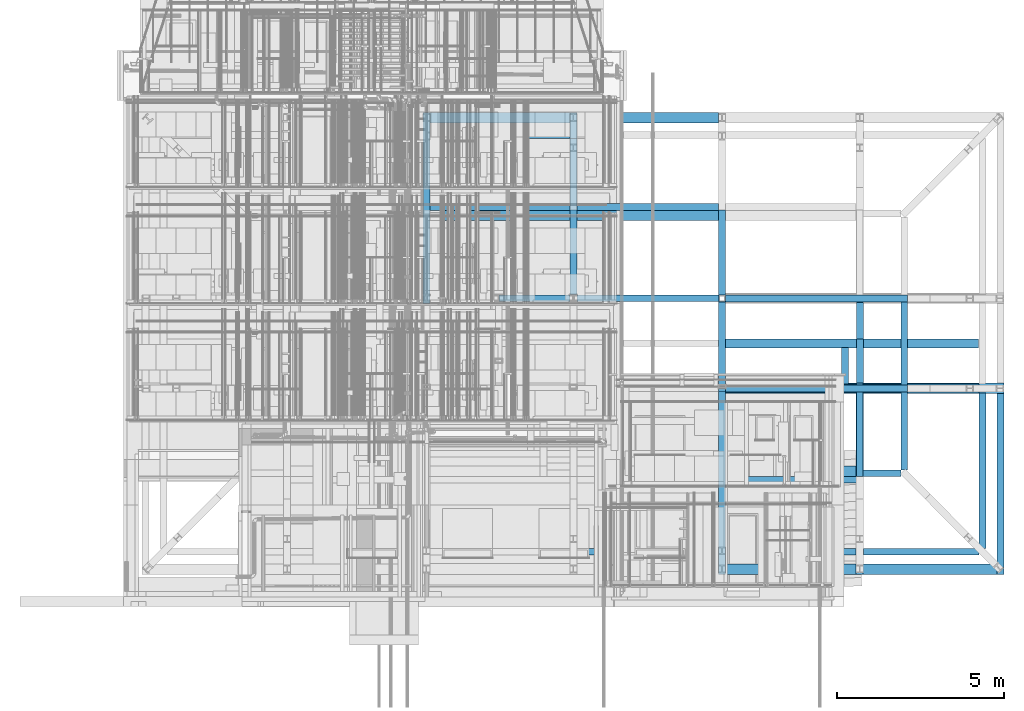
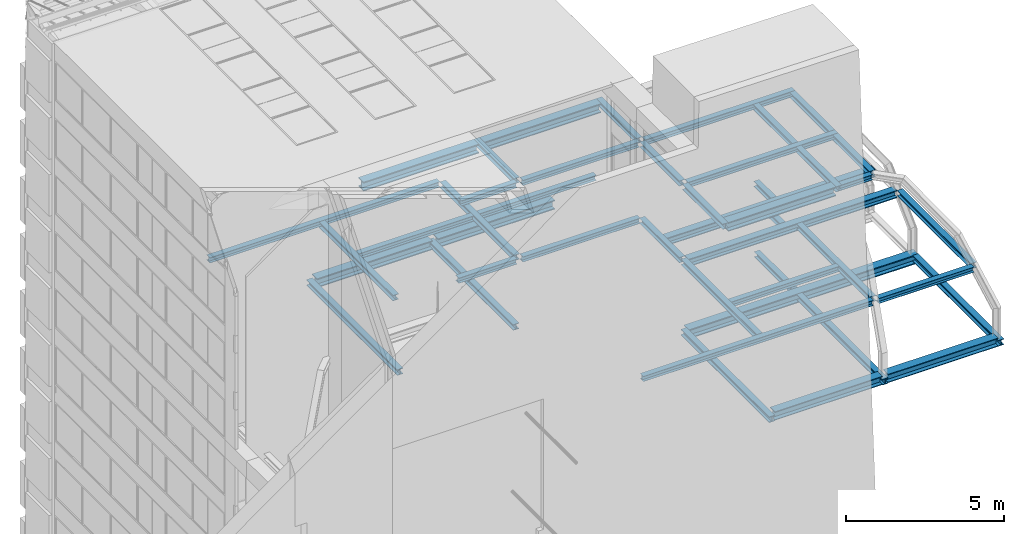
# One storey, part 6 of 583: 45 beams.
"""IFC2X3 building model written with IfcOpenShell, lengths in metres."""

from ifc_helpers import new_model, entity, si_unit, converted_unit, derived_unit, money_unit, direction, frame, origin_with_axes, place, context, subcontext, project, spatial, polyline, outline, extrude, material, type_object, element, save


model = new_model("IFC2X3")

# Units and contexts
model_context = context("Model", 3, precision=1e-05, world=origin_with_axes(), true_north=direction((0.0, 1.0)))
body_context = subcontext(model_context, "Body", "Model", "MODEL_VIEW", scale=1.0)
ifc_project = project(units=[si_unit("LENGTHUNIT", "METRE"), si_unit("AREAUNIT", "SQUARE_METRE"), si_unit("VOLUMEUNIT", "CUBIC_METRE"), si_unit("ABSORBEDDOSEUNIT", "GRAY"), si_unit("AMOUNTOFSUBSTANCEUNIT", "MOLE"), si_unit("DOSEEQUIVALENTUNIT", "SIEVERT"), si_unit("ELECTRICCAPACITANCEUNIT", "FARAD"), si_unit("ELECTRICCHARGEUNIT", "COULOMB"), si_unit("ELECTRICCONDUCTANCEUNIT", "SIEMENS"), si_unit("ELECTRICCURRENTUNIT", "AMPERE"), si_unit("ELECTRICRESISTANCEUNIT", "OHM"), si_unit("ELECTRICVOLTAGEUNIT", "VOLT"), si_unit("ENERGYUNIT", "JOULE"), si_unit("FORCEUNIT", "NEWTON"), si_unit("FREQUENCYUNIT", "HERTZ"), si_unit("ILLUMINANCEUNIT", "LUX"), si_unit("INDUCTANCEUNIT", "HENRY"), si_unit("LUMINOUSFLUXUNIT", "LUMEN"), si_unit("LUMINOUSINTENSITYUNIT", "CANDELA"), si_unit("MAGNETICFLUXDENSITYUNIT", "TESLA"), si_unit("MAGNETICFLUXUNIT", "WEBER"), si_unit("MASSUNIT", "GRAM"), converted_unit("PLANEANGLEUNIT", "degree", entity("IfcReal", 0.0174532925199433), si_unit("PLANEANGLEUNIT", "RADIAN"), dimensions=[0, 0, 0, 0, 0, 0, 0]), si_unit("POWERUNIT", "WATT"), si_unit("PRESSUREUNIT", "PASCAL"), si_unit("RADIOACTIVITYUNIT", "BECQUEREL"), si_unit("SOLIDANGLEUNIT", "STERADIAN"), si_unit("THERMODYNAMICTEMPERATUREUNIT", "KELVIN"), si_unit("TIMEUNIT", "SECOND"), derived_unit("ACCELERATIONUNIT", [(si_unit("LENGTHUNIT", "METRE"), 1), (si_unit("TIMEUNIT", "SECOND"), -2)]), derived_unit("ANGULARVELOCITYUNIT", [(converted_unit("PLANEANGLEUNIT", "degree", entity("IfcReal", 0.0174532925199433), si_unit("PLANEANGLEUNIT", "RADIAN"), dimensions=[0, 0, 0, 0, 0, 0, 0]), 1), (si_unit("TIMEUNIT", "SECOND"), -1)]), derived_unit("CURVATUREUNIT", [(converted_unit("PLANEANGLEUNIT", "degree", entity("IfcReal", 0.0174532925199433), si_unit("PLANEANGLEUNIT", "RADIAN"), dimensions=[0, 0, 0, 0, 0, 0, 0]), 1), (si_unit("LENGTHUNIT", "METRE"), -1)]), derived_unit("DYNAMICVISCOSITYUNIT", [(si_unit("PRESSUREUNIT", "PASCAL"), 1), (si_unit("TIMEUNIT", "SECOND"), 1)]), derived_unit("HEATFLUXDENSITYUNIT", [(si_unit("POWERUNIT", "WATT"), 1), (si_unit("LENGTHUNIT", "METRE"), -2)]), derived_unit("HEATINGVALUEUNIT", [(si_unit("ENERGYUNIT", "JOULE"), 1), (si_unit("MASSUNIT", "GRAM"), -1)]), derived_unit("INTEGERCOUNTRATEUNIT", [(si_unit("TIMEUNIT", "SECOND"), -1)]), derived_unit("IONCONCENTRATIONUNIT", [(si_unit("MASSUNIT", "GRAM"), 1), (si_unit("VOLUMEUNIT", "CUBIC_METRE"), -1)]), derived_unit("ISOTHERMALMOISTURECAPACITYUNIT", [(si_unit("VOLUMEUNIT", "CUBIC_METRE"), 1), (si_unit("MASSUNIT", "GRAM"), -1)]), derived_unit("KINEMATICVISCOSITYUNIT", [(si_unit("AREAUNIT", "SQUARE_METRE"), 1), (si_unit("TIMEUNIT", "SECOND"), -1)]), derived_unit("LINEARFORCEUNIT", [(si_unit("FORCEUNIT", "NEWTON"), 1), (si_unit("LENGTHUNIT", "METRE"), -1)]), derived_unit("LINEARMOMENTUNIT", [(si_unit("FORCEUNIT", "NEWTON"), 1), (si_unit("LENGTHUNIT", "METRE"), -1)]), derived_unit("LINEARSTIFFNESSUNIT", [(si_unit("FORCEUNIT", "NEWTON"), 1), (si_unit("LENGTHUNIT", "METRE"), -1)]), derived_unit("LINEARVELOCITYUNIT", [(si_unit("LENGTHUNIT", "METRE"), 1), (si_unit("TIMEUNIT", "SECOND"), -1)]), derived_unit("LUMINOUSINTENSITYDISTRIBUTIONUNIT", [(si_unit("LUMINOUSINTENSITYUNIT", "CANDELA"), 1), (si_unit("LUMINOUSFLUXUNIT", "LUMEN"), -1)]), derived_unit("MASSDENSITYUNIT", [(si_unit("MASSUNIT", "GRAM"), 1), (si_unit("VOLUMEUNIT", "CUBIC_METRE"), -1)]), derived_unit("MASSFLOWRATEUNIT", [(si_unit("MASSUNIT", "GRAM"), 1), (si_unit("TIMEUNIT", "SECOND"), -1)]), derived_unit("MASSPERLENGTHUNIT", [(si_unit("MASSUNIT", "GRAM"), 1), (si_unit("LENGTHUNIT", "METRE"), -1)]), derived_unit("MODULUSOFELASTICITYUNIT", [(si_unit("FORCEUNIT", "NEWTON"), 1), (si_unit("AREAUNIT", "SQUARE_METRE"), -1)]), derived_unit("MODULUSOFLINEARSUBGRADEREACTIONUNIT", [(si_unit("FORCEUNIT", "NEWTON"), 1), (si_unit("LENGTHUNIT", "METRE"), -2)]), derived_unit("MODULUSOFROTATIONALSUBGRADEREACTIONUNIT", [(si_unit("FORCEUNIT", "NEWTON"), 1), (si_unit("LENGTHUNIT", "METRE"), 1)]), derived_unit("MODULUSOFSUBGRADEREACTIONUNIT", [(si_unit("FORCEUNIT", "NEWTON"), 1), (si_unit("VOLUMEUNIT", "CUBIC_METRE"), -1)]), derived_unit("MOISTUREDIFFUSIVITYUNIT", [(si_unit("VOLUMEUNIT", "CUBIC_METRE"), 1), (si_unit("TIMEUNIT", "SECOND"), -1)]), derived_unit("MOLECULARWEIGHTUNIT", [(si_unit("MASSUNIT", "GRAM"), 1), (si_unit("AMOUNTOFSUBSTANCEUNIT", "MOLE"), -1)]), derived_unit("PLANARFORCEUNIT", [(si_unit("FORCEUNIT", "NEWTON"), 1), (si_unit("LENGTHUNIT", "METRE"), -2)]), derived_unit("ROTATIONALFREQUENCYUNIT", [(si_unit("TIMEUNIT", "SECOND"), -1)]), derived_unit("ROTATIONALMASSUNIT", [(si_unit("MASSUNIT", "GRAM"), 1), (si_unit("LENGTHUNIT", "METRE"), 2)]), derived_unit("ROTATIONALSTIFFNESSUNIT", [(si_unit("FORCEUNIT", "NEWTON"), 1), (si_unit("LENGTHUNIT", "METRE"), 1), (converted_unit("PLANEANGLEUNIT", "degree", entity("IfcReal", 0.0174532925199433), si_unit("PLANEANGLEUNIT", "RADIAN"), dimensions=[0, 0, 0, 0, 0, 0, 0]), -1)]), derived_unit("SECTIONAREAINTEGRALUNIT", [(si_unit("LENGTHUNIT", "METRE"), 5)]), derived_unit("SECTIONMODULUSUNIT", [(si_unit("LENGTHUNIT", "METRE"), 3)]), derived_unit("SHEARMODULUSUNIT", [(si_unit("FORCEUNIT", "NEWTON"), 1), (si_unit("AREAUNIT", "SQUARE_METRE"), -1)]), derived_unit("SOUNDPOWERUNIT", [(si_unit("ENERGYUNIT", "JOULE"), 1), (si_unit("TIMEUNIT", "SECOND"), -1)]), derived_unit("SPECIFICHEATCAPACITYUNIT", [(si_unit("FORCEUNIT", "NEWTON"), 1), (si_unit("MASSUNIT", "GRAM"), -1), (si_unit("THERMODYNAMICTEMPERATUREUNIT", "KELVIN"), -1)]), derived_unit("TEMPERATUREGRADIENTUNIT", [(si_unit("THERMODYNAMICTEMPERATUREUNIT", "KELVIN"), 1), (si_unit("LENGTHUNIT", "METRE"), -1)]), derived_unit("THERMALADMITTANCEUNIT", [(si_unit("POWERUNIT", "WATT"), 1), (si_unit("AREAUNIT", "SQUARE_METRE"), -1), (si_unit("THERMODYNAMICTEMPERATUREUNIT", "KELVIN"), -1)]), derived_unit("THERMALCONDUCTANCEUNIT", [(si_unit("POWERUNIT", "WATT"), 1), (si_unit("LENGTHUNIT", "METRE"), -1), (si_unit("THERMODYNAMICTEMPERATUREUNIT", "KELVIN"), -1)]), derived_unit("THERMALEXPANSIONCOEFFICIENTUNIT", [(si_unit("THERMODYNAMICTEMPERATUREUNIT", "KELVIN"), -1)]), derived_unit("THERMALRESISTANCEUNIT", [(si_unit("AREAUNIT", "SQUARE_METRE"), 1), (si_unit("POWERUNIT", "WATT"), -1)]), derived_unit("THERMALTRANSMITTANCEUNIT", [(si_unit("POWERUNIT", "WATT"), 1), (si_unit("AREAUNIT", "SQUARE_METRE"), -1), (si_unit("THERMODYNAMICTEMPERATUREUNIT", "KELVIN"), -1)]), derived_unit("TORQUEUNIT", [(si_unit("FORCEUNIT", "NEWTON"), 1), (si_unit("LENGTHUNIT", "METRE"), 1)]), derived_unit("VAPORPERMEABILITYUNIT", [(si_unit("MASSUNIT", "GRAM"), 1), (si_unit("TIMEUNIT", "SECOND"), -1)]), derived_unit("VOLUMETRICFLOWRATEUNIT", [(si_unit("VOLUMEUNIT", "CUBIC_METRE"), 1), (si_unit("TIMEUNIT", "SECOND"), -1)]), derived_unit("WARPINGCONSTANTUNIT", [(si_unit("LENGTHUNIT", "METRE"), 6)]), derived_unit("WARPINGMOMENTUNIT", [(si_unit("FORCEUNIT", "NEWTON"), 1), (si_unit("LENGTHUNIT", "METRE"), 2)]), money_unit("GBP")], contexts=[model_context])

# Site, building, storey
site_placement = place(None, origin_with_axes())
site = spatial("IfcSite", under=ifc_project, at=site_placement, Name="Site", CompositionType="ELEMENT")
building_placement = place(site_placement, origin_with_axes())
building = spatial("IfcBuilding", under=site, at=building_placement, Name="Building01", CompositionType="ELEMENT")
storey_placement = place(building_placement, frame((0.0, 0.0, 20.78), z_axis=(0.0, 0.0, 1.0), x_axis=(1.0, 0.0, 0.0)))
storey = spatial("IfcBuildingStorey", under=building, at=storey_placement, Name="RL", CompositionType="ELEMENT", Elevation=20.78)

# Beams
ifc_material = material(Name="A_BSUK_Beams_Steel")
beam_type = type_object("IfcBeamType", Name="A-Beams-Steel", PredefinedType="BEAM")
beam_1_placement = place(storey_placement, frame((9.19455, 14.0616, -6.0532), z_axis=(1.0, 0.0, 0.0), x_axis=(0.0, 1.0, 0.0)))
element("IfcBeam", 1, at=beam_1_placement, inside=storey, type_object=beam_type, material=ifc_material, Name="A-Beams-Steel", ObjectType="A-Beams-Steel", context=body_context, shape_type="SweptSolid", body=[
    extrude(outline(polyline([(0.3184, 0.0), (0.3184, 0.0377), (0.1707, 0.0377), (0.1707, 0.3148), (0.3184, 0.3148), (0.3184, 0.3525), (0.0, 0.3525), (0.0, 0.3148), (0.1477, 0.3148), (0.1477, 0.0377), (0.0, 0.0377), (0.0, 0.0), (0.3184, 0.0)])), origin_with_axes(), (0.0, 0.0, 1.0), 4.2009),
])
beam_2_placement = place(storey_placement, frame((18.06695, 0.52, -6.0532), z_axis=(1.0, 0.0, 0.0), x_axis=(0.0, 1.0, 0.0)))
element("IfcBeam", 2, at=beam_2_placement, inside=storey, type_object=beam_type, material=ifc_material, Name="A-Beams-Steel", ObjectType="A-Beams-Steel", context=body_context, shape_type="SweptSolid", body=[
    extrude(outline(polyline([(0.3112, 0.0), (0.3112, 0.025), (0.1635, 0.025), (0.1635, 0.3021), (0.3112, 0.3021), (0.3112, 0.3271), (0.0, 0.3271), (0.0, 0.3021), (0.1477, 0.3021), (0.1477, 0.025), (0.0, 0.025), (0.0, 0.0), (0.3112, 0.0)])), origin_with_axes(), (0.0, 0.0, 1.0), 3.9185),
])
beam_3_placement = place(storey_placement, frame((18.06, 5.9408, -6.2025), z_axis=(1.0, 0.0, 0.0), x_axis=(0.0, 1.0, 0.0)))
element("IfcBeam", 3, at=beam_3_placement, inside=storey, type_object=beam_type, material=ifc_material, Name="A-Beams-Steel", ObjectType="A-Beams-Steel", context=body_context, shape_type="SweptSolid", body=[
    extrude(outline(polyline([(0.3184, 0.0), (0.3184, 0.0377), (0.1707, 0.0377), (0.1707, 0.3148), (0.3184, 0.3148), (0.3184, 0.3525), (0.0, 0.3525), (0.0, 0.3148), (0.1477, 0.3148), (0.1477, 0.0377), (0.0, 0.0377), (0.0, 0.0), (0.3184, 0.0)])), origin_with_axes(), (0.0, 0.0, 1.0), 8.36),
])
beam_4_placement = place(storey_placement, frame((8.98545, 14.38, -6.0722), z_axis=(0.0, -1.0, 0.0), x_axis=(1.0, 0.0, 0.0)))
element("IfcBeam", 4, at=beam_4_placement, inside=storey, type_object=beam_type, material=ifc_material, Name="A-Beams-Steel", ObjectType="A-Beams-Steel", context=body_context, shape_type="SweptSolid", body=[
    extrude(outline(polyline([(0.2091, 0.0), (0.2091, 0.0205), (0.1109, 0.0205), (0.1109, 0.2017), (0.2091, 0.2017), (0.2091, 0.2222), (0.0, 0.2222), (0.0, 0.2017), (0.0982, 0.2017), (0.0982, 0.0205), (0.0, 0.0205), (0.0, 0.0), (0.2091, 0.0)])), origin_with_axes(), (0.0, 0.0, 1.0), 5.7392),
])
beam_5_placement = place(storey_placement, frame((13.39545, 14.38, -6.0722), z_axis=(0.0, -1.0, 0.0), x_axis=(1.0, 0.0, 0.0)))
element("IfcBeam", 5, at=beam_5_placement, inside=storey, type_object=beam_type, material=ifc_material, Name="A-Beams-Steel", ObjectType="A-Beams-Steel", context=body_context, shape_type="SweptSolid", body=[
    extrude(outline(polyline([(0.2091, 0.0), (0.2091, 0.0205), (0.1109, 0.0205), (0.1109, 0.2017), (0.2091, 0.2017), (0.2091, 0.2222), (0.0, 0.2222), (0.0, 0.2017), (0.0982, 0.2017), (0.0982, 0.0205), (0.0, 0.0205), (0.0, 0.0), (0.2091, 0.0)])), origin_with_axes(), (0.0, 0.0, 1.0), 5.4208),
])
beam_6_placement = place(storey_placement, frame((17.85545, 6.1, -6.0722), z_axis=(0.0, -1.0, 0.0), x_axis=(1.0, 0.0, 0.0)))
element("IfcBeam", 6, at=beam_6_placement, inside=storey, type_object=beam_type, material=ifc_material, Name="A-Beams-Steel", ObjectType="A-Beams-Steel", context=body_context, shape_type="SweptSolid", body=[
    extrude(outline(polyline([(0.2091, 0.0), (0.2091, 0.0205), (0.1109, 0.0205), (0.1109, 0.2017), (0.2091, 0.2017), (0.2091, 0.2222), (0.0, 0.2222), (0.0, 0.2017), (0.0982, 0.2017), (0.0982, 0.0205), (0.0, 0.0205), (0.0, 0.0), (0.2091, 0.0)])), origin_with_axes(), (0.0, 0.0, 1.0), 5.58),
])
for number, where, z_axis, x_axis, name in (
    (7, (21.98545, 5.9408, -6.0722), (0.0, -1.0, 0.0), (1.0, 0.0, 0.0), "A-Beams-Steel"),
    (8, (26.2109, 5.9408, -6.0532), (0.0, -1.0, 0.0), (1.0, 0.0, 0.0), "A-Beams-Steel"),
):
    element("IfcBeam", number, at=place(storey_placement, frame(where, z_axis=z_axis, x_axis=x_axis)), inside=storey, type_object=beam_type, material=ifc_material, Name=name, ObjectType="A-Beams-Steel", context=body_context, shape_type="SweptSolid", body=[
        extrude(outline(polyline([(0.2091, 0.0), (0.2091, 0.0205), (0.1109, 0.0205), (0.1109, 0.2017), (0.2091, 0.2017), (0.2091, 0.2222), (0.0, 0.2222), (0.0, 0.2017), (0.0982, 0.2017), (0.0982, 0.0205), (0.0, 0.0205), (0.0, 0.0), (0.2091, 0.0)])), origin_with_axes(), (0.0, 0.0, 1.0), 5.4208),
    ])
beam_7_placement = place(storey_placement, frame((21.9982, 8.6408, -6.0532), z_axis=(0.0, -1.0, 0.0), x_axis=(1.0, 0.0, 0.0)))
element("IfcBeam", 9, at=beam_7_placement, inside=storey, type_object=beam_type, material=ifc_material, Name="A-Beams-Steel", ObjectType="A-Beams-Steel", context=body_context, shape_type="SweptSolid", body=[
    extrude(outline(polyline([(0.2036, 0.0), (0.2036, 0.011), (0.1054, 0.011), (0.1054, 0.1922), (0.2036, 0.1922), (0.2036, 0.2032), (0.0, 0.2032), (0.0, 0.1922), (0.0982, 0.1922), (0.0982, 0.011), (0.0, 0.011), (0.0, 0.0), (0.2036, 0.0)])), origin_with_axes(), (0.0, 0.0, 1.0), 2.3816),
])
beam_8_placement = place(storey_placement, frame((22.19455, 0.52, -6.0532), z_axis=(1.0, 0.0, 0.0), x_axis=(0.0, 1.0, 0.0)))
element("IfcBeam", 10, at=beam_8_placement, inside=storey, type_object=beam_type, material=ifc_material, Name="A-Beams-Steel", ObjectType="A-Beams-Steel", context=body_context, shape_type="SweptSolid", body=[
    extrude(outline(polyline([(0.3112, 0.0), (0.3112, 0.025), (0.1635, 0.025), (0.1635, 0.3021), (0.3112, 0.3021), (0.3112, 0.3271), (0.0, 0.3271), (0.0, 0.3021), (0.1477, 0.3021), (0.1477, 0.025), (0.0, 0.025), (0.0, 0.0), (0.3112, 0.0)])), origin_with_axes(), (0.0, 0.0, 1.0), 4.01635),
])
beam_9_placement = place(storey_placement, frame((13.60455, 14.0616, -6.0532), z_axis=(1.0, 0.0, 0.0), x_axis=(0.0, 1.0, 0.0)))
element("IfcBeam", 11, at=beam_9_placement, inside=storey, type_object=beam_type, material=ifc_material, Name="A-Beams-Steel", ObjectType="A-Beams-Steel", context=body_context, shape_type="SweptSolid", body=[
    extrude(outline(polyline([(0.3184, 0.0), (0.3184, 0.0377), (0.1707, 0.0377), (0.1707, 0.3148), (0.3184, 0.3148), (0.3184, 0.3525), (0.0, 0.3525), (0.0, 0.3148), (0.1477, 0.3148), (0.1477, 0.0377), (0.0, 0.0377), (0.0, 0.0), (0.3184, 0.0)])), origin_with_axes(), (0.0, 0.0, 1.0), 4.2509),
])
beam_10_placement = place(storey_placement, frame((13.6018, 11.1308, -0.5525), z_axis=(1.0, 0.0, 0.0), x_axis=(0.0, 1.0, 0.0)))
element("IfcBeam", 12, at=beam_10_placement, inside=storey, type_object=beam_type, material=ifc_material, Name="A-Beams-Steel", ObjectType="A-Beams-Steel", context=body_context, shape_type="SweptSolid", body=[
    extrude(outline(polyline([(0.3184, 0.0), (0.3184, 0.0377), (0.1707, 0.0377), (0.1707, 0.3148), (0.3184, 0.3148), (0.3184, 0.3525), (0.0, 0.3525), (0.0, 0.3148), (0.1477, 0.3148), (0.1477, 0.0377), (0.0, 0.0377), (0.0, 0.0), (0.3184, 0.0)])), origin_with_axes(), (0.0, 0.0, 1.0), 4.2564),
])
beam_11_placement = place(storey_placement, frame((18.0618, 3.4508, -0.5525), z_axis=(1.0, 0.0, 0.0), x_axis=(0.0, 1.0, 0.0)))
element("IfcBeam", 13, at=beam_11_placement, inside=storey, type_object=beam_type, material=ifc_material, Name="A-Beams-Steel", ObjectType="A-Beams-Steel", context=body_context, shape_type="SweptSolid", body=[
    extrude(outline(polyline([(0.3184, 0.0), (0.3184, 0.0377), (0.1707, 0.0377), (0.1707, 0.3148), (0.3184, 0.3148), (0.3184, 0.3525), (0.0, 0.3525), (0.0, 0.3148), (0.1477, 0.3148), (0.1477, 0.0377), (0.0, 0.0377), (0.0, 0.0), (0.3184, 0.0)])), origin_with_axes(), (0.0, 0.0, 1.0), 3.926366),
])
beam_12_placement = place(storey_placement, frame((13.3982, 11.4492, -0.4032), z_axis=(0.0, -1.0, 0.0), x_axis=(1.0, 0.0, 0.0)))
element("IfcBeam", 14, at=beam_12_placement, inside=storey, type_object=beam_type, material=ifc_material, Name="A-Beams-Steel", ObjectType="A-Beams-Steel", context=body_context, shape_type="SweptSolid", body=[
    extrude(outline(polyline([(0.2036, 0.0), (0.2036, 0.011), (0.1054, 0.011), (0.1054, 0.1922), (0.2036, 0.1922), (0.2036, 0.2032), (0.0, 0.2032), (0.0, 0.1922), (0.0982, 0.1922), (0.0982, 0.011), (0.0, 0.011), (0.0, 0.0), (0.2036, 0.0)])), origin_with_axes(), (0.0, 0.0, 1.0), 2.5349),
])
beam_13_placement = place(storey_placement, frame((17.8582, 11.4492, -0.4032), z_axis=(0.0, -1.0, 0.0), x_axis=(1.0, 0.0, 0.0)))
element("IfcBeam", 15, at=beam_13_placement, inside=storey, type_object=beam_type, material=ifc_material, Name="A-Beams-Steel", ObjectType="A-Beams-Steel", context=body_context, shape_type="SweptSolid", body=[
    extrude(outline(polyline([(0.2036, 0.0), (0.2036, 0.011), (0.1054, 0.011), (0.1054, 0.1922), (0.2036, 0.1922), (0.2036, 0.2032), (0.0, 0.2032), (0.0, 0.1922), (0.0982, 0.1922), (0.0982, 0.011), (0.0, 0.011), (0.0, 0.0), (0.2036, 0.0)])), origin_with_axes(), (0.0, 0.0, 1.0), 2.546),
])
beam_14_placement = place(storey_placement, frame((17.8582, 8.6968, -0.4032), z_axis=(0.0, -1.0, 0.0), x_axis=(1.0, 0.0, 0.0)))
element("IfcBeam", 16, at=beam_14_placement, inside=storey, type_object=beam_type, material=ifc_material, Name="A-Beams-Steel", ObjectType="A-Beams-Steel", context=body_context, shape_type="SweptSolid", body=[
    extrude(outline(polyline([(0.2036, 0.0), (0.2036, 0.011), (0.1054, 0.011), (0.1054, 0.1922), (0.2036, 0.1922), (0.2036, 0.2032), (0.0, 0.2032), (0.0, 0.1922), (0.0982, 0.1922), (0.0982, 0.011), (0.0, 0.011), (0.0, 0.0), (0.2036, 0.0)])), origin_with_axes(), (0.0, 0.0, 1.0), 2.495),
])
beam_15_placement = place(storey_placement, frame((17.8582, 5.9982, -0.4032), z_axis=(0.0, -1.0, 0.0), x_axis=(1.0, 0.0, 0.0)))
element("IfcBeam", 17, at=beam_15_placement, inside=storey, type_object=beam_type, material=ifc_material, Name="A-Beams-Steel", ObjectType="A-Beams-Steel", context=body_context, shape_type="SweptSolid", body=[
    extrude(outline(polyline([(0.2036, 0.0), (0.2036, 0.011), (0.1054, 0.011), (0.1054, 0.1922), (0.2036, 0.1922), (0.2036, 0.2032), (0.0, 0.2032), (0.0, 0.1922), (0.0982, 0.1922), (0.0982, 0.011), (0.0, 0.011), (0.0, 0.0), (0.2036, 0.0)])), origin_with_axes(), (0.0, 0.0, 1.0), 2.5474),
])
beam_16_placement = place(storey_placement, frame((21.988166, 8.6968, -0.4032), z_axis=(0.0, -1.0, 0.0), x_axis=(1.0, 0.0, 0.0)))
element("IfcBeam", 18, at=beam_16_placement, inside=storey, type_object=beam_type, material=ifc_material, Name="A-Beams-Steel", ObjectType="A-Beams-Steel", context=body_context, shape_type="SweptSolid", body=[
    extrude(outline(polyline([(0.2036, 0.0), (0.2036, 0.011), (0.1054, 0.011), (0.1054, 0.1922), (0.2036, 0.1922), (0.2036, 0.2032), (0.0, 0.2032), (0.0, 0.1922), (0.0982, 0.1922), (0.0982, 0.011), (0.0, 0.011), (0.0, 0.0), (0.2036, 0.0)])), origin_with_axes(), (0.0, 0.0, 1.0), 2.4936),
])
beam_17_placement = place(storey_placement, frame((21.988166, 5.9968, -0.4032), z_axis=(0.0, -1.0, 0.0), x_axis=(1.0, 0.0, 0.0)))
element("IfcBeam", 19, at=beam_17_placement, inside=storey, type_object=beam_type, material=ifc_material, Name="A-Beams-Steel", ObjectType="A-Beams-Steel", context=body_context, shape_type="SweptSolid", body=[
    extrude(outline(polyline([(0.2036, 0.0), (0.2036, 0.011), (0.1054, 0.011), (0.1054, 0.1922), (0.2036, 0.1922), (0.2036, 0.2032), (0.0, 0.2032), (0.0, 0.1922), (0.0982, 0.1922), (0.0982, 0.011), (0.0, 0.011), (0.0, 0.0), (0.2036, 0.0)])), origin_with_axes(), (0.0, 0.0, 1.0), 2.546),
])
beam_18_placement = place(storey_placement, frame((23.325402, 8.6968, -0.4032), z_axis=(0.0, -1.0, 0.0), x_axis=(1.0, 0.0, 0.0)))
element("IfcBeam", 20, at=beam_18_placement, inside=storey, type_object=beam_type, material=ifc_material, Name="A-Beams-Steel", ObjectType="A-Beams-Steel", context=body_context, shape_type="SweptSolid", body=[
    extrude(outline(polyline([(0.2036, 0.0), (0.2036, 0.011), (0.1054, 0.011), (0.1054, 0.1922), (0.2036, 0.1922), (0.2036, 0.2032), (0.0, 0.2032), (0.0, 0.1922), (0.0982, 0.1922), (0.0982, 0.011), (0.0, 0.011), (0.0, 0.0), (0.2036, 0.0)])), origin_with_axes(), (0.0, 0.0, 1.0), 2.4936),
])
beam_19_placement = place(storey_placement, frame((23.325402, 5.9968, -0.4032), z_axis=(0.0, -1.0, 0.0), x_axis=(1.0, 0.0, 0.0)))
element("IfcBeam", 21, at=beam_19_placement, inside=storey, type_object=beam_type, material=ifc_material, Name="A-Beams-Steel", ObjectType="A-Beams-Steel", context=body_context, shape_type="SweptSolid", body=[
    extrude(outline(polyline([(0.2036, 0.0), (0.2036, 0.011), (0.1054, 0.011), (0.1054, 0.1922), (0.2036, 0.1922), (0.2036, 0.2032), (0.0, 0.2032), (0.0, 0.1922), (0.0982, 0.1922), (0.0982, 0.011), (0.0, 0.011), (0.0, 0.0), (0.2036, 0.0)])), origin_with_axes(), (0.0, 0.0, 1.0), 2.3424),
])
beam_20_placement = place(storey_placement, frame((22.191766, 3.4508, -0.4032), z_axis=(1.0, 0.0, 0.0), x_axis=(0.0, 1.0, 0.0)))
element("IfcBeam", 22, at=beam_20_placement, inside=storey, type_object=beam_type, material=ifc_material, Name="A-Beams-Steel", ObjectType="A-Beams-Steel", context=body_context, shape_type="SweptSolid", body=[
    extrude(outline(polyline([(0.2036, 0.0), (0.2036, 0.011), (0.1054, 0.011), (0.1054, 0.1922), (0.2036, 0.1922), (0.2036, 0.2032), (0.0, 0.2032), (0.0, 0.1922), (0.0982, 0.1922), (0.0982, 0.011), (0.0, 0.011), (0.0, 0.0), (0.2036, 0.0)])), origin_with_axes(), (0.0, 0.0, 1.0), 1.133636),
])
beam_21_placement = place(storey_placement, frame((11.36515, 8.6982, -0.4032), z_axis=(1.0, 0.0, 0.0), x_axis=(0.0, 1.0, 0.0)))
element("IfcBeam", 23, at=beam_21_placement, inside=storey, type_object=beam_type, material=ifc_material, Name="A-Beams-Steel", ObjectType="A-Beams-Steel", context=body_context, shape_type="SweptSolid", body=[
    extrude(outline(polyline([(0.2036, 0.0), (0.2036, 0.011), (0.1054, 0.011), (0.1054, 0.1922), (0.2036, 0.1922), (0.2036, 0.2032), (0.0, 0.2032), (0.0, 0.1922), (0.0982, 0.1922), (0.0982, 0.011), (0.0, 0.011), (0.0, 0.0), (0.2036, 0.0)])), origin_with_axes(), (0.0, 0.0, 1.0), 2.0297),
])
beam_22_placement = place(storey_placement, frame((13.60515, 8.6982, -0.4032), z_axis=(1.0, 0.0, 0.0), x_axis=(0.0, 1.0, 0.0)))
element("IfcBeam", 24, at=beam_22_placement, inside=storey, type_object=beam_type, material=ifc_material, Name="A-Beams-Steel", ObjectType="A-Beams-Steel", context=body_context, shape_type="SweptSolid", body=[
    extrude(outline(polyline([(0.2036, 0.0), (0.2036, 0.011), (0.1054, 0.011), (0.1054, 0.1922), (0.2036, 0.1922), (0.2036, 0.2032), (0.0, 0.2032), (0.0, 0.1922), (0.0982, 0.1922), (0.0982, 0.011), (0.0, 0.011), (0.0, 0.0), (0.2036, 0.0)])), origin_with_axes(), (0.0, 0.0, 1.0), 4.25305),
])
for number, where, z_axis, x_axis, name in (
    (25, (18.0618, 8.6968, -0.4158), (1.0, 0.0, 0.0), (0.0, 1.0, 0.0), "A-Beams-Steel"),
    (26, (18.0618, 5.9968, -0.4158), (1.0, 0.0, 0.0), (0.0, 1.0, 0.0), "A-Beams-Steel"),
):
    element("IfcBeam", number, at=place(storey_placement, frame(where, z_axis=z_axis, x_axis=x_axis)), inside=storey, type_object=beam_type, material=ifc_material, Name=name, ObjectType="A-Beams-Steel", context=body_context, shape_type="SweptSolid", body=[
        extrude(outline(polyline([(0.2064, 0.0), (0.2064, 0.0173), (0.1082, 0.0173), (0.1082, 0.1985), (0.2064, 0.1985), (0.2064, 0.2158), (0.0, 0.2158), (0.0, 0.1985), (0.0982, 0.1985), (0.0982, 0.0173), (0.0, 0.0173), (0.0, 0.0), (0.2064, 0.0)])), origin_with_axes(), (0.0, 0.0, 1.0), 5.467202),
    ])
beam_23_placement = place(storey_placement, frame((9.1918, 11.1308, -0.5525), z_axis=(1.0, 0.0, 0.0), x_axis=(0.0, 1.0, 0.0)))
element("IfcBeam", 27, at=beam_23_placement, inside=storey, type_object=beam_type, material=ifc_material, Name="A-Beams-Steel", ObjectType="A-Beams-Steel", context=body_context, shape_type="SweptSolid", body=[
    extrude(outline(polyline([(0.3184, 0.0), (0.3184, 0.0377), (0.1707, 0.0377), (0.1707, 0.3148), (0.3184, 0.3148), (0.3184, 0.3525), (0.0, 0.3525), (0.0, 0.3148), (0.1477, 0.3148), (0.1477, 0.0377), (0.0, 0.0377), (0.0, 0.0), (0.3184, 0.0)])), origin_with_axes(), (0.0, 0.0, 1.0), 4.2064),
])
beam_24_placement = place(storey_placement, frame((5.0132, 13.5982, -3.3532), z_axis=(1.0, 0.0, 0.0), x_axis=(0.0, 1.0, 0.0)))
element("IfcBeam", 28, at=beam_24_placement, inside=storey, type_object=beam_type, material=ifc_material, Name="A-Beams-Steel", ObjectType="A-Beams-Steel", context=body_context, shape_type="SweptSolid", body=[
    extrude(outline(polyline([(0.2036, 0.0), (0.2036, 0.011), (0.1054, 0.011), (0.1054, 0.1922), (0.2036, 0.1922), (0.2036, 0.2032), (0.0, 0.2032), (0.0, 0.1922), (0.0982, 0.1922), (0.0982, 0.011), (0.0, 0.011), (0.0, 0.0), (0.2036, 0.0)])), origin_with_axes(), (0.0, 0.0, 1.0), 8.3836),
])
for number, where, z_axis, x_axis, name in (
    (29, (8.9868, 13.5982, -3.3658), (0.0, -1.0, 0.0), (1.0, 0.0, 0.0), "A-Beams-Steel"),
    (30, (13.3968, 13.5982, -3.3658), (0.0, -1.0, 0.0), (1.0, 0.0, 0.0), "A-Beams-Steel"),
):
    element("IfcBeam", number, at=place(storey_placement, frame(where, z_axis=z_axis, x_axis=x_axis)), inside=storey, type_object=beam_type, material=ifc_material, Name=name, ObjectType="A-Beams-Steel", context=body_context, shape_type="SweptSolid", body=[
        extrude(outline(polyline([(0.2064, 0.0), (0.2064, 0.0173), (0.1082, 0.0173), (0.1082, 0.1985), (0.2064, 0.1985), (0.2064, 0.2158), (0.0, 0.2158), (0.0, 0.1985), (0.0982, 0.1985), (0.0982, 0.0173), (0.0, 0.0173), (0.0, 0.0), (0.2064, 0.0)])), origin_with_axes(), (0.0, 0.0, 1.0), 4.6839),
    ])
beam_25_placement = place(storey_placement, frame((13.6032, 1.0982, -3.3532), z_axis=(1.0, 0.0, 0.0), x_axis=(0.0, 1.0, 0.0)))
element("IfcBeam", 31, at=beam_25_placement, inside=storey, type_object=beam_type, material=ifc_material, Name="A-Beams-Steel", ObjectType="A-Beams-Steel", context=body_context, shape_type="SweptSolid", body=[
    extrude(outline(polyline([(0.2036, 0.0), (0.2036, 0.011), (0.1054, 0.011), (0.1054, 0.1922), (0.2036, 0.1922), (0.2036, 0.2032), (0.0, 0.2032), (0.0, 0.1922), (0.0982, 0.1922), (0.0982, 0.011), (0.0, 0.011), (0.0, 0.0), (0.2036, 0.0)])), origin_with_axes(), (0.0, 0.0, 1.0), 8.3936),
])
beam_26_placement = place(storey_placement, frame((22.2032, 1.0982, -3.3532), z_axis=(1.0, 0.0, 0.0), x_axis=(0.0, 1.0, 0.0)))
element("IfcBeam", 32, at=beam_26_placement, inside=storey, type_object=beam_type, material=ifc_material, Name="A-Beams-Steel", ObjectType="A-Beams-Steel", context=body_context, shape_type="SweptSolid", body=[
    extrude(outline(polyline([(0.2036, 0.0), (0.2036, 0.011), (0.1054, 0.011), (0.1054, 0.1922), (0.2036, 0.1922), (0.2036, 0.2032), (0.0, 0.2032), (0.0, 0.1922), (0.0982, 0.1922), (0.0982, 0.011), (0.0, 0.011), (0.0, 0.0), (0.2036, 0.0)])), origin_with_axes(), (0.0, 0.0, 1.0), 3.4636),
])
beam_27_placement = place(storey_placement, frame((17.8568, 6.1, -3.3658), z_axis=(0.0, -1.0, 0.0), x_axis=(1.0, 0.0, 0.0)))
element("IfcBeam", 33, at=beam_27_placement, inside=storey, type_object=beam_type, material=ifc_material, Name="A-Beams-Steel", ObjectType="A-Beams-Steel", context=body_context, shape_type="SweptSolid", body=[
    extrude(outline(polyline([(0.2064, 0.0), (0.2064, 0.0173), (0.1082, 0.0173), (0.1082, 0.1985), (0.2064, 0.1985), (0.2064, 0.2158), (0.0, 0.2158), (0.0, 0.1985), (0.0982, 0.1985), (0.0982, 0.0173), (0.0, 0.0173), (0.0, 0.0), (0.2064, 0.0)])), origin_with_axes(), (0.0, 0.0, 1.0), 4.7982),
])
for number, where, z_axis, x_axis, name in (
    (34, (21.9968, 5.967373, -3.3658), (0.0, -1.0, 0.0), (1.0, 0.0, 0.0), "A-Beams-Steel"),
    (35, (25.6668, 5.967373, -3.3658), (0.0, -1.0, 0.0), (1.0, 0.0, 0.0), "A-Beams-Steel"),
):
    element("IfcBeam", number, at=place(storey_placement, frame(where, z_axis=z_axis, x_axis=x_axis)), inside=storey, type_object=beam_type, material=ifc_material, Name=name, ObjectType="A-Beams-Steel", context=body_context, shape_type="SweptSolid", body=[
        extrude(outline(polyline([(0.2064, 0.0), (0.2064, 0.0173), (0.1082, 0.0173), (0.1082, 0.1985), (0.2064, 0.1985), (0.2064, 0.2158), (0.0, 0.2158), (0.0, 0.1985), (0.0982, 0.1985), (0.0982, 0.0173), (0.0, 0.0173), (0.0, 0.0), (0.2064, 0.0)])), origin_with_axes(), (0.0, 0.0, 1.0), 4.665573),
    ])
beam_28_placement = place(storey_placement, frame((17.8582, 8.725, -3.3532), z_axis=(0.0, -1.0, 0.0), x_axis=(1.0, 0.0, 0.0)))
element("IfcBeam", 36, at=beam_28_placement, inside=storey, type_object=beam_type, material=ifc_material, Name="A-Beams-Steel", ObjectType="A-Beams-Steel", context=body_context, shape_type="SweptSolid", body=[
    extrude(outline(polyline([(0.2036, 0.0), (0.2036, 0.011), (0.1054, 0.011), (0.1054, 0.1922), (0.2036, 0.1922), (0.2036, 0.2032), (0.0, 0.2032), (0.0, 0.1922), (0.0982, 0.1922), (0.0982, 0.011), (0.0, 0.011), (0.0, 0.0), (0.2036, 0.0)])), origin_with_axes(), (0.0, 0.0, 1.0), 2.525),
])
for number, where, z_axis, x_axis, name in (
    (37, (21.9982, 8.673, -3.3532), (0.0, -1.0, 0.0), (1.0, 0.0, 0.0), "A-Beams-Steel"),
    (38, (21.5482, 7.319361, -3.3532), (0.0, -1.0, 0.0), (1.0, 0.0, 0.0), "A-Beams-Steel"),
):
    element("IfcBeam", number, at=place(storey_placement, frame(where, z_axis=z_axis, x_axis=x_axis)), inside=storey, type_object=beam_type, material=ifc_material, Name=name, ObjectType="A-Beams-Steel", context=body_context, shape_type="SweptSolid", body=[
        extrude(outline(polyline([(0.2036, 0.0), (0.2036, 0.011), (0.1054, 0.011), (0.1054, 0.1922), (0.2036, 0.1922), (0.2036, 0.2032), (0.0, 0.2032), (0.0, 0.1922), (0.0982, 0.1922), (0.0982, 0.011), (0.0, 0.011), (0.0, 0.0), (0.2036, 0.0)])), origin_with_axes(), (0.0, 0.0, 1.0), 1.086418),
    ])
beam_29_placement = place(storey_placement, frame((11.26515, 8.698199, -3.3532), z_axis=(1.0, 0.0, 0.0), x_axis=(0.0, 1.0, 0.0)))
element("IfcBeam", 39, at=beam_29_placement, inside=storey, type_object=beam_type, material=ifc_material, Name="A-Beams-Steel", ObjectType="A-Beams-Steel", context=body_context, shape_type="SweptSolid", body=[
    extrude(outline(polyline([(0.2036, 0.0), (0.2036, 0.011), (0.1054, 0.011), (0.1054, 0.1922), (0.2036, 0.1922), (0.2036, 0.2032), (0.0, 0.2032), (0.0, 0.1922), (0.0982, 0.1922), (0.0982, 0.011), (0.0, 0.011), (0.0, 0.0), (0.2036, 0.0)])), origin_with_axes(), (0.0, 0.0, 1.0), 2.1297),
])
beam_30_placement = place(storey_placement, frame((13.60515, 8.698199, -3.3532), z_axis=(1.0, 0.0, 0.0), x_axis=(0.0, 1.0, 0.0)))
element("IfcBeam", 40, at=beam_30_placement, inside=storey, type_object=beam_type, material=ifc_material, Name="A-Beams-Steel", ObjectType="A-Beams-Steel", context=body_context, shape_type="SweptSolid", body=[
    extrude(outline(polyline([(0.2036, 0.0), (0.2036, 0.011), (0.1054, 0.011), (0.1054, 0.1922), (0.2036, 0.1922), (0.2036, 0.2032), (0.0, 0.2032), (0.0, 0.1922), (0.0982, 0.1922), (0.0982, 0.011), (0.0, 0.011), (0.0, 0.0), (0.2036, 0.0)])), origin_with_axes(), (0.0, 0.0, 1.0), 4.27985),
])
beam_31_placement = place(storey_placement, frame((18.0632, 3.2582, -3.3532), z_axis=(1.0, 0.0, 0.0), x_axis=(0.0, 1.0, 0.0)))
element("IfcBeam", 41, at=beam_31_placement, inside=storey, type_object=beam_type, material=ifc_material, Name="A-Beams-Steel", ObjectType="A-Beams-Steel", context=body_context, shape_type="SweptSolid", body=[
    extrude(outline(polyline([(0.2036, 0.0), (0.2036, 0.011), (0.1054, 0.011), (0.1054, 0.1922), (0.2036, 0.1922), (0.2036, 0.2032), (0.0, 0.2032), (0.0, 0.1922), (0.0982, 0.1922), (0.0982, 0.011), (0.0, 0.011), (0.0, 0.0), (0.2036, 0.0)])), origin_with_axes(), (0.0, 0.0, 1.0), 3.9336),
])
beam_32_placement = place(storey_placement, frame((9.1932, 11.4382, -3.3532), z_axis=(1.0, 0.0, 0.0), x_axis=(0.0, 1.0, 0.0)))
element("IfcBeam", 42, at=beam_32_placement, inside=storey, type_object=beam_type, material=ifc_material, Name="A-Beams-Steel", ObjectType="A-Beams-Steel", context=body_context, shape_type="SweptSolid", body=[
    extrude(outline(polyline([(0.2036, 0.0), (0.2036, 0.011), (0.1054, 0.011), (0.1054, 0.1922), (0.2036, 0.1922), (0.2036, 0.2032), (0.0, 0.2032), (0.0, 0.1922), (0.0982, 0.1922), (0.0982, 0.011), (0.0, 0.011), (0.0, 0.0), (0.2036, 0.0)])), origin_with_axes(), (0.0, 0.0, 1.0), 4.203576),
])
beam_33_placement = place(storey_placement, frame((13.6032, 11.4382, -3.3532), z_axis=(1.0, 0.0, 0.0), x_axis=(0.0, 1.0, 0.0)))
element("IfcBeam", 43, at=beam_33_placement, inside=storey, type_object=beam_type, material=ifc_material, Name="A-Beams-Steel", ObjectType="A-Beams-Steel", context=body_context, shape_type="SweptSolid", body=[
    extrude(outline(polyline([(0.2036, 0.0), (0.2036, 0.011), (0.1054, 0.011), (0.1054, 0.1922), (0.2036, 0.1922), (0.2036, 0.2032), (0.0, 0.2032), (0.0, 0.1922), (0.0982, 0.1922), (0.0982, 0.011), (0.0, 0.011), (0.0, 0.0), (0.2036, 0.0)])), origin_with_axes(), (0.0, 0.0, 1.0), 4.2536),
])
beam_34_placement = place(storey_placement, frame((18.06, 5.967427, -3.4391), z_axis=(1.0, 0.0, 0.0), x_axis=(0.0, 1.0, 0.0)))
element("IfcBeam", 44, at=beam_34_placement, inside=storey, type_object=beam_type, material=ifc_material, Name="A-Beams-Steel", ObjectType="A-Beams-Steel", context=body_context, shape_type="SweptSolid", body=[
    extrude(outline(polyline([(0.2652, 0.0), (0.2652, 0.0317), (0.1422, 0.0317), (0.1422, 0.2574), (0.2652, 0.2574), (0.2652, 0.2891), (0.0, 0.2891), (0.0, 0.2574), (0.123, 0.2574), (0.123, 0.0317), (0.0, 0.0317), (0.0, 0.0), (0.2652, 0.0)])), origin_with_axes(), (0.0, 0.0, 1.0), 7.6068),
])
beam_35_placement = place(storey_placement, frame((18.0618, 7.3174, -3.4391), z_axis=(1.0, 0.0, 0.0), x_axis=(0.0, 1.0, 0.0)))
element("IfcBeam", 45, at=beam_35_placement, inside=storey, type_object=beam_type, material=ifc_material, Name="A-Beams-Steel", ObjectType="A-Beams-Steel", context=body_context, shape_type="SweptSolid", body=[
    extrude(outline(polyline([(0.2652, 0.0), (0.2652, 0.0317), (0.1422, 0.0317), (0.1422, 0.2574), (0.2652, 0.2574), (0.2652, 0.2891), (0.0, 0.2891), (0.0, 0.2574), (0.123, 0.2574), (0.123, 0.0317), (0.0, 0.0317), (0.0, 0.0), (0.2652, 0.0)])), origin_with_axes(), (0.0, 0.0, 1.0), 7.593593),
])

save(model, "model.ifc")
